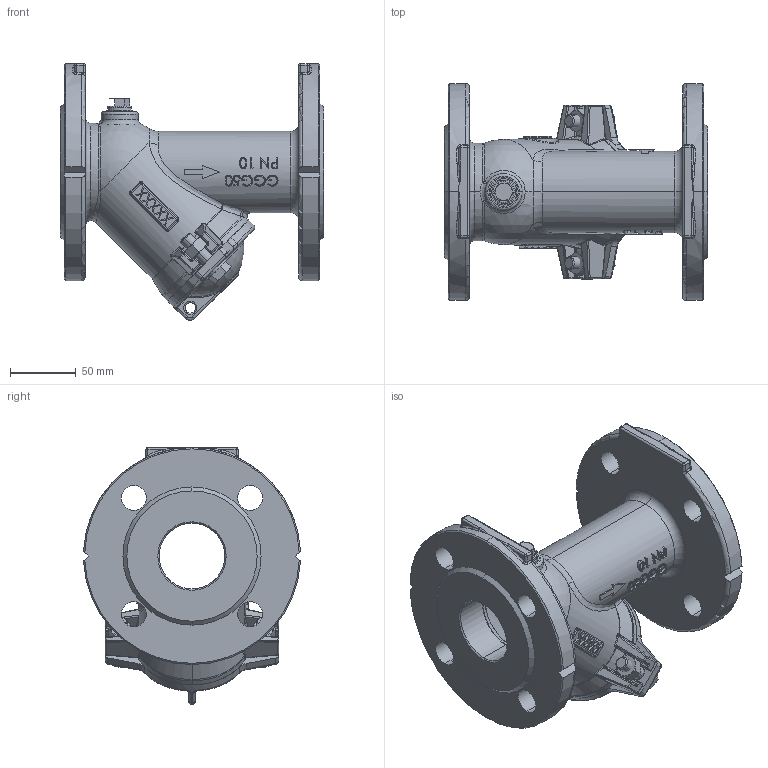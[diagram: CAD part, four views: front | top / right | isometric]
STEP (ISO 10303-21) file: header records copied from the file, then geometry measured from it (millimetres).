
FILE_DESCRIPTION (( 'STEP AP203' ), '1' );
FILE_NAME ('642000010-1.STEP', '2018-02-16T09:50:24', ( '' ), ( '' ), 'SwSTEP 2.0', 'SolidWorks 2017', '' );
FILE_SCHEMA (( 'CONFIG_CONTROL_DESIGN' ));
Length unit declared in the file: millimetre
Products named in the file (1): 642000010-1
Bounding box: 200 x 164.81 x 195.31 mm (x, y, z)
Surface area: 204878.4 mm2 (no closed solid volume)
Topology: 0 solids, 13 shells, 897 faces, 2396 edges, 1452 vertices
Faces by surface type: plane 268, cylinder 229, bspline 182, torus 106, cone 65, sphere 47
Entity records: 38730 total; most frequent: CARTESIAN_POINT 17964, ORIENTED_EDGE 4326, DIRECTION 4091, EDGE_CURVE 2344, AXIS2_PLACEMENT_3D 1559, VERTEX_POINT 1448, LINE 973, VECTOR 973
